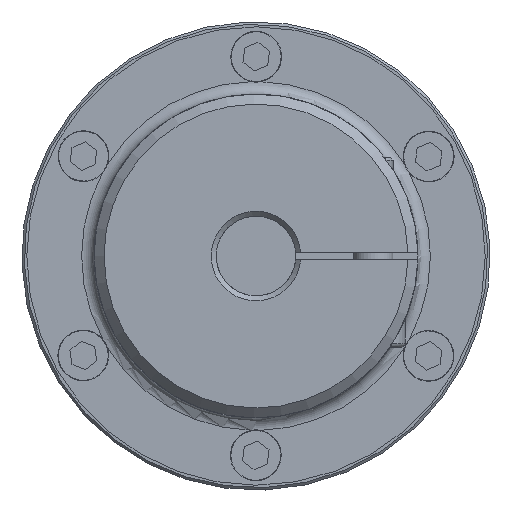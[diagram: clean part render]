
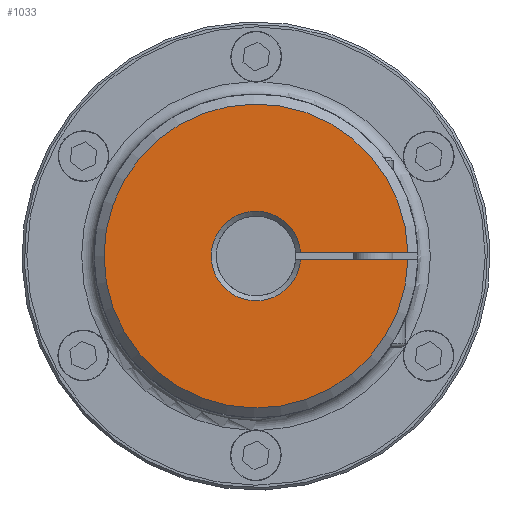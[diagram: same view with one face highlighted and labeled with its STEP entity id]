
A CAD part, left-side view. The second image highlights one B-rep face of the part: STEP entity #1033.
In plain terms, the highlighted planar face has unit normal (-1, 0, 0) as drawn and (0, 0, -1) by its records, which use the part's own axes.
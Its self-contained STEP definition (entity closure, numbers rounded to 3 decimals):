
#1033 = ADVANCED_FACE( '', ( #2162 ), #2163, .T. );
#2162 = FACE_OUTER_BOUND( '', #3667, .T. );
#2163 = PLANE( '', #3668 );
#3667 = EDGE_LOOP( '', ( #5231, #5232, #5233, #5234 ) );
#3668 = AXIS2_PLACEMENT_3D( '', #5235, #5236, #5237 );
#5231 = ORIENTED_EDGE( '', *, *, #8011, .F. );
#5232 = ORIENTED_EDGE( '', *, *, #8012, .T. );
#5233 = ORIENTED_EDGE( '', *, *, #8013, .T. );
#5234 = ORIENTED_EDGE( '', *, *, #8014, .T. );
#5235 = CARTESIAN_POINT( '', ( 0., 0., 0. ) );
#5236 = DIRECTION( '', ( 0., 0., -1. ) );
#5237 = DIRECTION( '', ( -1., 0., 0. ) );
#8011 = EDGE_CURVE( '', #9273, #9274, #9275, .T. );
#8012 = EDGE_CURVE( '', #9273, #9276, #9277, .T. );
#8013 = EDGE_CURVE( '', #9276, #9278, #9279, .T. );
#8014 = EDGE_CURVE( '', #9278, #9274, #9280, .F. );
#9273 = VERTEX_POINT( '', #11079 );
#9274 = VERTEX_POINT( '', #11080 );
#9275 = LINE( '', #11081, #11082 );
#9276 = VERTEX_POINT( '', #11083 );
#9277 = CIRCLE( '', #11084, 30.5 );
#9278 = VERTEX_POINT( '', #11085 );
#9279 = LINE( '', #11086, #11087 );
#9280 = CIRCLE( '', #11088, 9. );
#11079 = CARTESIAN_POINT( '', ( -30.491, 0.75, 0. ) );
#11080 = CARTESIAN_POINT( '', ( -8.969, 0.75, 0. ) );
#11081 = CARTESIAN_POINT( '', ( -32.5, 0.75, 0. ) );
#11082 = VECTOR( '', #13588, 1000. );
#11083 = CARTESIAN_POINT( '', ( -30.491, -0.75, 0. ) );
#11084 = AXIS2_PLACEMENT_3D( '', #13589, #13590, #13591 );
#11085 = CARTESIAN_POINT( '', ( -8.969, -0.75, 0. ) );
#11086 = CARTESIAN_POINT( '', ( -32.5, -0.75, 0. ) );
#11087 = VECTOR( '', #13592, 1000. );
#11088 = AXIS2_PLACEMENT_3D( '', #13593, #13594, #13595 );
#13588 = DIRECTION( '', ( 1., 0., 0. ) );
#13589 = CARTESIAN_POINT( '', ( 0., 0., 0. ) );
#13590 = DIRECTION( '', ( 0., 0., -1. ) );
#13591 = DIRECTION( '', ( -1., 0., 0. ) );
#13592 = DIRECTION( '', ( 1., 0., 0. ) );
#13593 = CARTESIAN_POINT( '', ( 0., 0., 0. ) );
#13594 = DIRECTION( '', ( 0., 0., -1. ) );
#13595 = DIRECTION( '', ( -1., 0., 0. ) );
